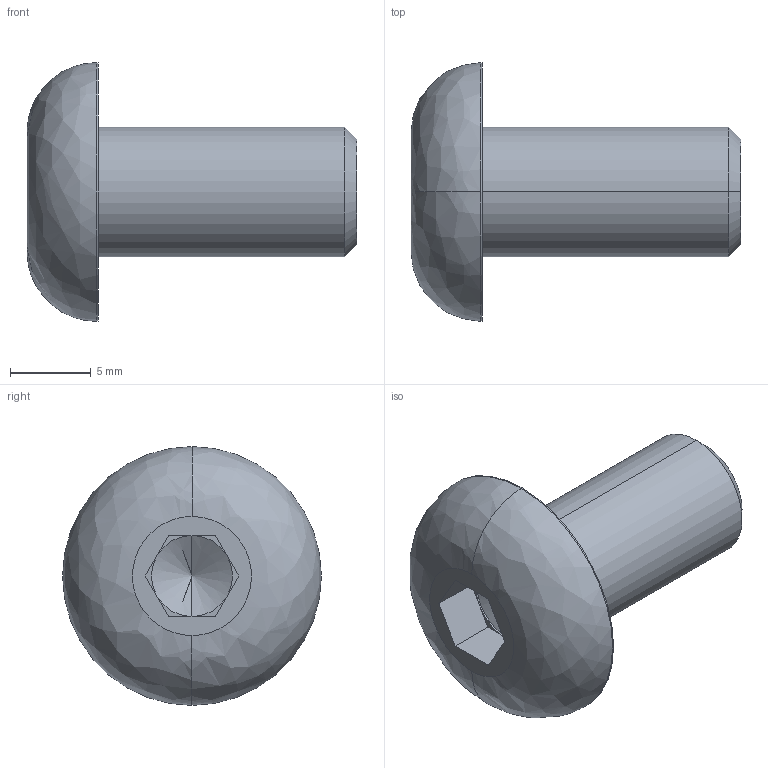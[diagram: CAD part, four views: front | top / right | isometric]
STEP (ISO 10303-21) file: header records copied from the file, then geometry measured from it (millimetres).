
FILE_DESCRIPTION (( 'STEP AP214' ), '1' );
FILE_NAME ('ISO7380_8x16.STEP', '2016-05-18T14:44:37', ( '' ), ( '' ), 'SwSTEP 2.0', 'SolidWorks 2014', '' );
FILE_SCHEMA (( 'AUTOMOTIVE_DESIGN' ));
Length unit declared in the file: millimetre
Products named in the file (1): ISO7380_8x16
Bounding box: 20.4 x 16 x 16 mm (x, y, z)
Volume: 1431.7 mm3; surface area: 966 mm2
Topology: 1 solids, 1 shells, 27 faces, 59 edges, 34 vertices
Faces by surface type: plane 15, cylinder 6, cone 4, bspline 2
Entity records: 771 total; most frequent: CARTESIAN_POINT 158, DIRECTION 126, ORIENTED_EDGE 114, EDGE_CURVE 57, AXIS2_PLACEMENT_3D 46, VERTEX_POINT 34, VECTOR 34, LINE 34
